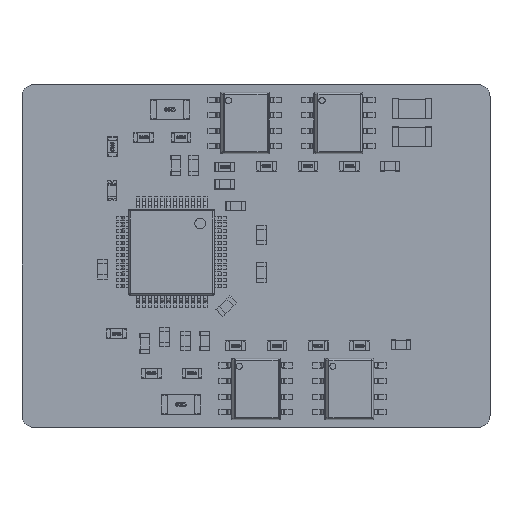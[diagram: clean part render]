
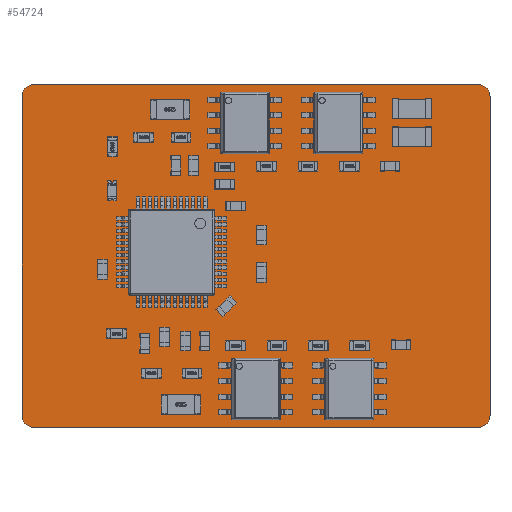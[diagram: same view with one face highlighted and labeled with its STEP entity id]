
A CAD part, top view. The second image highlights one B-rep face of the part: STEP entity #54724.
In plain terms, the highlighted planar face has unit normal (0, 0, 1).
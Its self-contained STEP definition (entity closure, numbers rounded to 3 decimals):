
#54459 = VERTEX_POINT('',#54460);
#54460 = CARTESIAN_POINT('',(-36.83,-25.67,0.));
#54466 = EDGE_CURVE('',#54459,#54467,#54469,.T.);
#54467 = VERTEX_POINT('',#54468);
#54468 = CARTESIAN_POINT('',(-35.83,-26.67,0.));
#54469 = CIRCLE('',#54470,1.);
#54470 = AXIS2_PLACEMENT_3D('',#54471,#54472,#54473);
#54471 = CARTESIAN_POINT('',(-35.83,-25.67,0.));
#54472 = DIRECTION('',(0.,0.,1.));
#54473 = DIRECTION('',(-1.,0.,0.));
#54499 = EDGE_CURVE('',#54467,#54500,#54502,.T.);
#54500 = VERTEX_POINT('',#54501);
#54501 = CARTESIAN_POINT('',(0.27,-26.67,0.));
#54502 = LINE('',#54503,#54504);
#54503 = CARTESIAN_POINT('',(-35.83,-26.67,0.));
#54504 = VECTOR('',#54505,1.);
#54505 = DIRECTION('',(1.,0.,0.));
#54530 = EDGE_CURVE('',#54500,#54531,#54533,.T.);
#54531 = VERTEX_POINT('',#54532);
#54532 = CARTESIAN_POINT('',(1.27,-25.67,0.));
#54533 = CIRCLE('',#54534,1.);
#54534 = AXIS2_PLACEMENT_3D('',#54535,#54536,#54537);
#54535 = CARTESIAN_POINT('',(0.27,-25.67,0.));
#54536 = DIRECTION('',(0.,0.,1.));
#54537 = DIRECTION('',(0.,-1.,0.));
#54563 = EDGE_CURVE('',#54531,#54564,#54566,.T.);
#54564 = VERTEX_POINT('',#54565);
#54565 = CARTESIAN_POINT('',(1.27,0.27,0.));
#54566 = LINE('',#54567,#54568);
#54567 = CARTESIAN_POINT('',(1.27,-25.67,0.));
#54568 = VECTOR('',#54569,1.);
#54569 = DIRECTION('',(0.,1.,0.));
#54594 = EDGE_CURVE('',#54564,#54595,#54597,.T.);
#54595 = VERTEX_POINT('',#54596);
#54596 = CARTESIAN_POINT('',(0.27,1.27,0.));
#54597 = CIRCLE('',#54598,1.);
#54598 = AXIS2_PLACEMENT_3D('',#54599,#54600,#54601);
#54599 = CARTESIAN_POINT('',(0.27,0.27,0.));
#54600 = DIRECTION('',(0.,0.,1.));
#54601 = DIRECTION('',(1.,0.,0.));
#54627 = EDGE_CURVE('',#54595,#54628,#54630,.T.);
#54628 = VERTEX_POINT('',#54629);
#54629 = CARTESIAN_POINT('',(-35.83,1.27,0.));
#54630 = LINE('',#54631,#54632);
#54631 = CARTESIAN_POINT('',(0.27,1.27,0.));
#54632 = VECTOR('',#54633,1.);
#54633 = DIRECTION('',(-1.,0.,0.));
#54658 = EDGE_CURVE('',#54628,#54659,#54661,.T.);
#54659 = VERTEX_POINT('',#54660);
#54660 = CARTESIAN_POINT('',(-36.83,0.27,0.));
#54661 = CIRCLE('',#54662,1.);
#54662 = AXIS2_PLACEMENT_3D('',#54663,#54664,#54665);
#54663 = CARTESIAN_POINT('',(-35.83,0.27,0.));
#54664 = DIRECTION('',(0.,0.,1.));
#54665 = DIRECTION('',(0.,1.,0.));
#54691 = EDGE_CURVE('',#54659,#54459,#54692,.T.);
#54692 = LINE('',#54693,#54694);
#54693 = CARTESIAN_POINT('',(-36.83,0.27,0.));
#54694 = VECTOR('',#54695,1.);
#54695 = DIRECTION('',(0.,-1.,0.));
#54724 = ADVANCED_FACE('',(#54725),#54735,.F.);
#54725 = FACE_BOUND('',#54726,.T.);
#54726 = EDGE_LOOP('',(#54727,#54728,#54729,#54730,#54731,#54732,#54733,
    #54734));
#54727 = ORIENTED_EDGE('',*,*,#54466,.T.);
#54728 = ORIENTED_EDGE('',*,*,#54499,.T.);
#54729 = ORIENTED_EDGE('',*,*,#54530,.T.);
#54730 = ORIENTED_EDGE('',*,*,#54563,.T.);
#54731 = ORIENTED_EDGE('',*,*,#54594,.T.);
#54732 = ORIENTED_EDGE('',*,*,#54627,.T.);
#54733 = ORIENTED_EDGE('',*,*,#54658,.T.);
#54734 = ORIENTED_EDGE('',*,*,#54691,.T.);
#54735 = PLANE('',#54736);
#54736 = AXIS2_PLACEMENT_3D('',#54737,#54738,#54739);
#54737 = CARTESIAN_POINT('',(-36.83,-25.67,0.));
#54738 = DIRECTION('',(0.,0.,-1.));
#54739 = DIRECTION('',(-1.,0.,0.));
